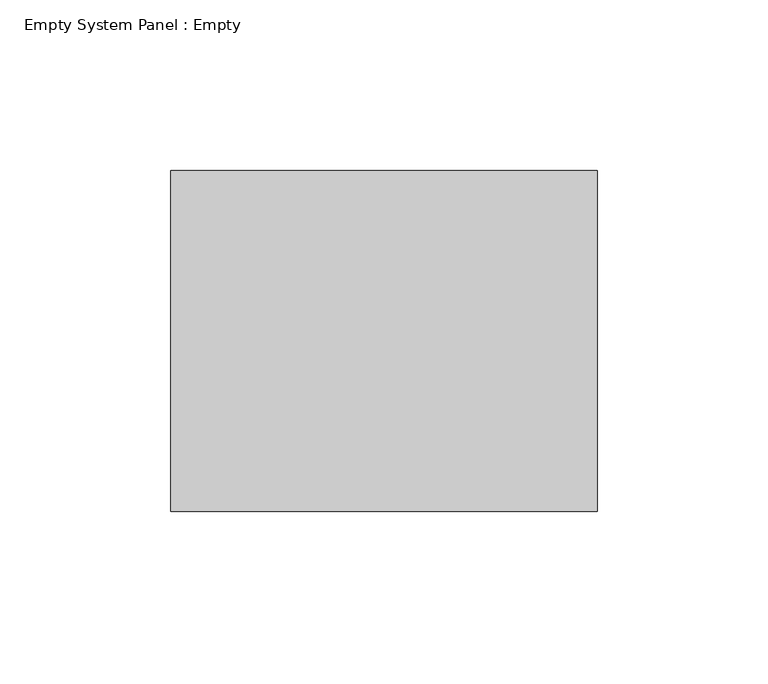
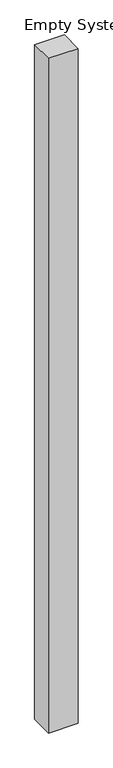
"""IFC4 building model written with IfcOpenShell, lengths in millimetres: plate geometry, Empty System Panel : Empty."""

from ifc_helpers import new_model, si_unit, origin, origin_with_axes, place, context, project, spatial, polyline, outline, extrude, source, transform, mapped, element, save


def empty_system_panel_empty_1b6afc67(model_context):
    return source(origin(), model_context, "Body", "SweptSolid", [
        extrude(outline(polyline([(62.5, 50.0), (-62.5, 50.0), (-62.5, 150.0), (62.5, 150.0), (62.5, 50.0)])), origin_with_axes(), (0.0, 0.0, 1.0), 3000.0),
    ])


if __name__ == "__main__":
    model = new_model("IFC4")
    model_context = context("Model", 3, world=origin())
    ifc_project = project(units=[si_unit("LENGTHUNIT", "METRE", prefix="MILLI")], contexts=[model_context])
    site = spatial("IfcSite", under=ifc_project)
    building = spatial("IfcBuilding", under=site)
    placement = place(None, origin())
    empty_system_panel_empty_shape = empty_system_panel_empty_1b6afc67(model_context)
    element("IfcPlate", 1, ObjectType="Empty System Panel : Empty", at=placement, inside=building, context=model_context, shape_type="MappedRepresentation", body=[
        mapped(empty_system_panel_empty_shape, transform((0.0, 0.0, 0.0), x_axis=(1.0, 0.0, 0.0), y_axis=(0.0, 1.0, 0.0), z_axis=(0.0, 0.0, 1.0))),
    ])
    save(model, "model.ifc")
